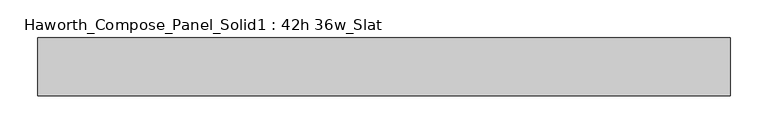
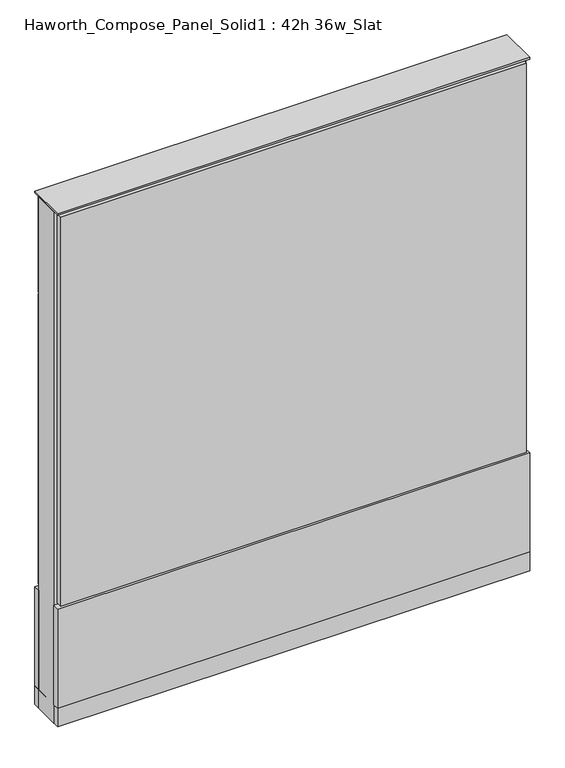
"""IFC4 building model written with IfcOpenShell, lengths in millimetres: furniture geometry, Haworth_Compose_Panel_Solid1 : 42h 36w_Slat."""

from ifc_helpers import new_model, si_unit, point, frame, frame_2d, origin, origin_with_axes, place, context, project, spatial, polyline, circle_curve, trimmed, segment, composite_curve, outline, extrude, source, transform, mapped, element, save


def haworth_compose_panel_solid1_42h_36w_slat_df57a7c7(model_context):
    return source(origin(), model_context, "Body", "SweptSolid", [
        extrude(outline(composite_curve([segment(trimmed(circle_curve(frame_2d((-378.5597098, 0.0)), 12.7), [point((-391.2597098, 0.0))], [point((-365.8597098, 0.0))], False, "CARTESIAN"), True, "CONTINUOUS"), segment(trimmed(circle_curve(frame_2d((-378.5597098, 0.0)), 12.7), [point((-365.8597098, 0.0))], [point((-391.2597098, 0.0))], False, "CARTESIAN"), True, "CONTINUOUS")], self_intersect=False)), origin_with_axes(), (0.0, 0.0, 1.0), 12.7),
        extrude(outline(composite_curve([segment(trimmed(circle_curve(frame_2d((383.4402902, 0.0)), 12.7), [point((370.7402902, 0.0))], [point((396.1402902, 0.0))], False, "CARTESIAN"), True, "CONTINUOUS"), segment(trimmed(circle_curve(frame_2d((383.4402902, 0.0)), 12.7), [point((396.1402902, 0.0))], [point((370.7402902, 0.0))], False, "CARTESIAN"), True, "CONTINUOUS")], self_intersect=False)), origin_with_axes(), (0.0, 0.0, 1.0), 12.7),
        extrude(outline(polyline([(453.2902902, 38.1), (453.2902902, 25.4), (-448.4097098, 25.4), (-448.4097098, 38.1), (453.2902902, 38.1)])), frame((0.0, 0.0, 854.075), z_axis=(0.0, 0.0, 1.0), x_axis=(1.0, 0.0, 0.0)), (0.0, 0.0, 1.0), 200.025),
        extrude(outline(polyline([(453.2902902, 38.1), (453.2902902, 25.4), (-448.4097098, 25.4), (-448.4097098, 38.1), (453.2902902, 38.1)])), frame((0.0, 0.0, 257.175), z_axis=(0.0, 0.0, 1.0), x_axis=(1.0, 0.0, 0.0)), (0.0, 0.0, 1.0), 593.725),
        extrude(outline(polyline([(459.6402902, 38.1), (459.6402902, 25.4), (-454.7597098, 25.4), (-454.7597098, 38.1), (459.6402902, 38.1)])), frame((0.0, 0.0, 50.8), z_axis=(0.0, 0.0, 1.0), x_axis=(1.0, 0.0, 0.0)), (0.0, 0.0, 1.0), 203.2),
        extrude(outline(polyline([(459.6402902, -38.1), (-454.7597098, -38.1), (-454.7597098, -25.4), (459.6402902, -25.4), (459.6402902, -38.1)])), frame((0.0, 0.0, 50.8), z_axis=(0.0, 0.0, 1.0), x_axis=(1.0, 0.0, 0.0)), (0.0, 0.0, 1.0), 203.2),
        extrude(outline(polyline([(453.2902902, -38.1), (-448.4097098, -38.1), (-448.4097098, -25.4), (453.2902902, -25.4), (453.2902902, -38.1)])), frame((0.0, 0.0, 257.175), z_axis=(0.0, 0.0, 1.0), x_axis=(1.0, 0.0, 0.0)), (0.0, 0.0, 1.0), 796.925),
        extrude(outline(polyline([(459.6402902, 25.4), (459.6402902, -25.4), (-454.7597098, -25.4), (-454.7597098, 25.4), (459.6402902, 25.4)])), frame((0.0, 0.0, 12.7), z_axis=(0.0, 0.0, 1.0), x_axis=(1.0, 0.0, 0.0)), (0.0, 0.0, 1.0), 1047.75),
        extrude(outline(polyline([(-454.7597098, -38.1), (-454.7597098, 38.1), (459.6402902, 38.1), (459.6402902, -38.1), (-454.7597098, -38.1)])), frame((0.0, 0.0, 12.7), z_axis=(0.0, 0.0, 1.0), x_axis=(1.0, 0.0, 0.0)), (0.0, 0.0, 1.0), 38.1),
        extrude(outline(polyline([(-454.7597098, -38.1), (-454.7597098, 38.1), (459.6402902, 38.1), (459.6402902, -38.1), (-454.7597098, -38.1)])), frame((0.0, 0.0, 1060.45), z_axis=(0.0, 0.0, 1.0), x_axis=(1.0, 0.0, 0.0)), (0.0, 0.0, 1.0), 3.175),
    ])


if __name__ == "__main__":
    model = new_model("IFC4")
    model_context = context("Model", 3, world=origin())
    ifc_project = project(units=[si_unit("LENGTHUNIT", "METRE", prefix="MILLI")], contexts=[model_context])
    site = spatial("IfcSite", under=ifc_project)
    building = spatial("IfcBuilding", under=site)
    placement = place(None, origin())
    haworth_compose_panel_solid1_42h_36w_slat_shape = haworth_compose_panel_solid1_42h_36w_slat_df57a7c7(model_context)
    element("IfcFurniture", 1, ObjectType="Haworth_Compose_Panel_Solid1 : 42h 36w_Slat", at=placement, inside=building, context=model_context, shape_type="MappedRepresentation", body=[
        mapped(haworth_compose_panel_solid1_42h_36w_slat_shape, transform((0.0, 0.0, 0.0), x_axis=(1.0, 0.0, 0.0), y_axis=(0.0, 1.0, 0.0), z_axis=(0.0, 0.0, 1.0))),
    ])
    save(model, "model.ifc")
